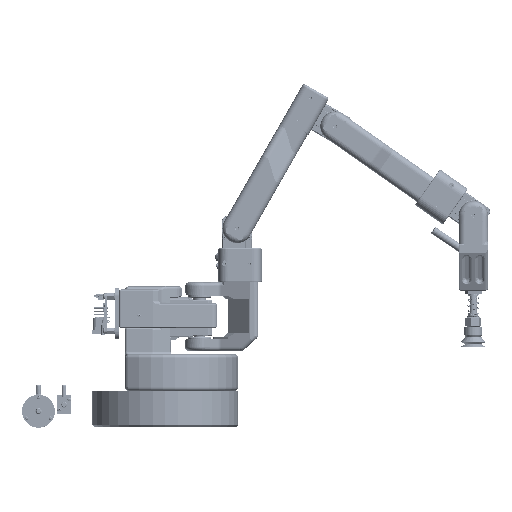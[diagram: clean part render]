
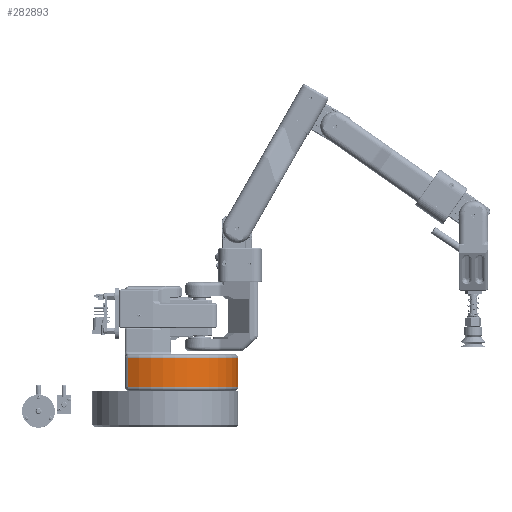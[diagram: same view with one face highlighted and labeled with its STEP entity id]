
A CAD part, left-side view. The second image highlights one B-rep face of the part: STEP entity #282893.
In plain terms, the highlighted cylindrical face has radius 60 mm (diameter 120 mm), a partial arc.
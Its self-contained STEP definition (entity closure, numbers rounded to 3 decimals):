
#25155=FACE_OUTER_BOUND('',#40000,.T.);
#40000=EDGE_LOOP('',(#197672,#197673,#197674,#197675));
#58338=LINE('',#397714,#90585);
#58374=LINE('',#397871,#90621);
#90585=VECTOR('',#321864,10.);
#90621=VECTOR('',#321984,10.);
#122935=CIRCLE('',#300300,60.);
#122936=CIRCLE('',#300302,60.);
#128379=VERTEX_POINT('',#397693);
#128382=VERTEX_POINT('',#397708);
#128442=VERTEX_POINT('',#397853);
#128443=VERTEX_POINT('',#397865);
#155711=EDGE_CURVE('',#128379,#128382,#58338,.T.);
#155784=EDGE_CURVE('',#128442,#128443,#58374,.T.);
#155924=EDGE_CURVE('',#128382,#128442,#122935,.T.);
#155925=EDGE_CURVE('',#128443,#128379,#122936,.T.);
#197672=ORIENTED_EDGE('',*,*,#155711,.F.);
#197673=ORIENTED_EDGE('',*,*,#155925,.F.);
#197674=ORIENTED_EDGE('',*,*,#155784,.F.);
#197675=ORIENTED_EDGE('',*,*,#155924,.F.);
#280192=CYLINDRICAL_SURFACE('',#300301,60.);
#282893=ADVANCED_FACE('',(#25155),#280192,.T.);
#300300=AXIS2_PLACEMENT_3D('',#398175,#322353,#322354);
#300301=AXIS2_PLACEMENT_3D('',#398176,#322355,#322356);
#300302=AXIS2_PLACEMENT_3D('',#398177,#322357,#322358);
#321864=DIRECTION('',(0.,1.,0.));
#321984=DIRECTION('',(0.,-1.,0.));
#322353=DIRECTION('center_axis',(0.,1.,0.));
#322354=DIRECTION('ref_axis',(0.,0.,1.));
#322355=DIRECTION('center_axis',(0.,-1.,0.));
#322356=DIRECTION('ref_axis',(0.,0.,
1.));
#322357=DIRECTION('center_axis',(0.,-1.,0.));
#322358=DIRECTION('ref_axis',(0.,0.,1.));
#397693=CARTESIAN_POINT('',(-51.631,-10.6,-13.545));
#397708=CARTESIAN_POINT('',(-51.631,13.4,-13.545));
#397714=CARTESIAN_POINT('',(-51.631,1.4,-13.545));
#397853=CARTESIAN_POINT('',(51.654,13.4,-13.545));
#397865=CARTESIAN_POINT('',(51.654,-10.6,-13.545));
#397871=CARTESIAN_POINT('',(51.654,1.4,-13.545));
#398175=CARTESIAN_POINT('Origin',(0.011,13.4,17.));
#398176=CARTESIAN_POINT('Origin',(0.011,1.4,17.));
#398177=CARTESIAN_POINT('Origin',(0.011,-10.6,
17.));
